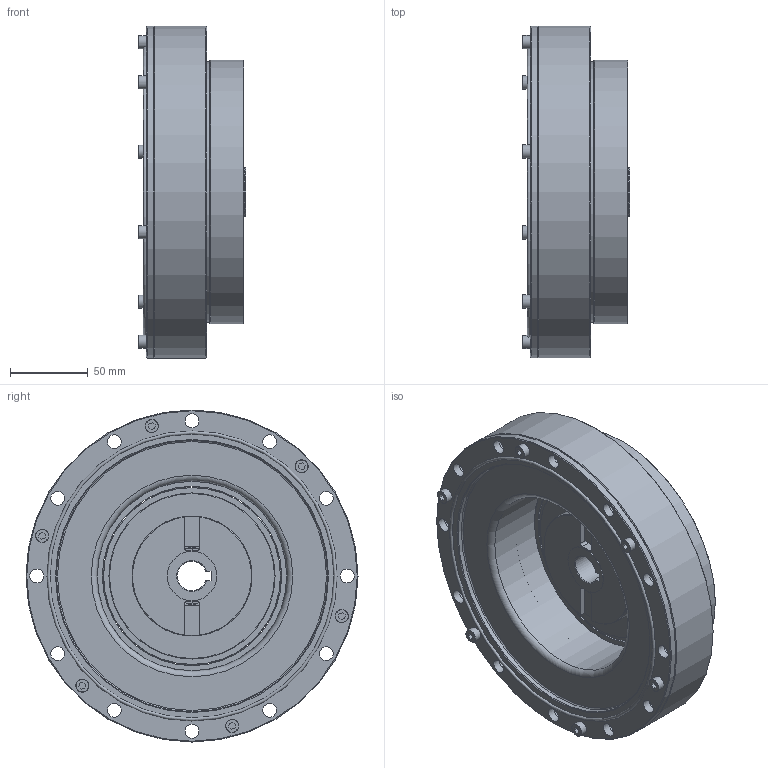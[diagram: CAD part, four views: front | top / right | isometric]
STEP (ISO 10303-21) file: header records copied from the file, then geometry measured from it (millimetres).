
FILE_DESCRIPTION (( 'STEP AP203' ), '1' );
FILE_NAME ('FHG-50-XXX-SO.STEP', '2024-09-19T02:21:03', ( '微软用户' ), ( '微软中国' ), 'SwSTEP 2.0', 'SolidWorks 2016', '' );
FILE_SCHEMA (( 'CONFIG_CONTROL_DESIGN' ));
Length unit declared in the file: millimetre
Products named in the file (1): FHG-50-XXX-SO
Bounding box: 69 x 214 x 214 mm (x, y, z)
Volume: 1158836.8 mm3; surface area: 454969.9 mm2
Topology: 56 solids, 56 shells, 771 faces, 1866 edges, 1210 vertices
Faces by surface type: plane 346, cylinder 242, cone 113, torus 43, sphere 23, bspline 4
Full cylindrical faces by diameter (mm): 2.5 x2, 4.2 x14, 5 x14, 5.5 x14, 6.8 x16, 8.5 x14, 9 x40, 10 x8, 30.3 x1, 32 x3, 32.5 x2, 32.6 x1, 36 x1, 42 x1, 44.5 x1, 77 x2, 88.9 x1, 96.26 x2, 98 x1, 107 x1, 114 x1, 115.62 x2, 122.692 x1, 122.7 x1, 124.198 x1, 125.15 x1, 128.042 x1, 129 x1, 134.403 x1, 135 x3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
Entity records: 22709 total; most frequent: CARTESIAN_POINT 6222, DIRECTION 3558, ORIENTED_EDGE 2796, AXIS2_PLACEMENT_3D 1492, EDGE_CURVE 1398, EDGE_LOOP 1238, VERTEX_POINT 1068, FACE_OUTER_BOUND 958
